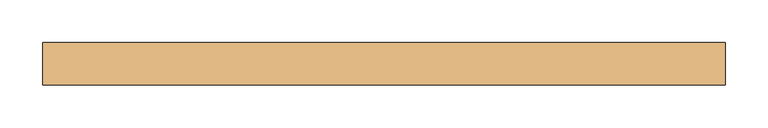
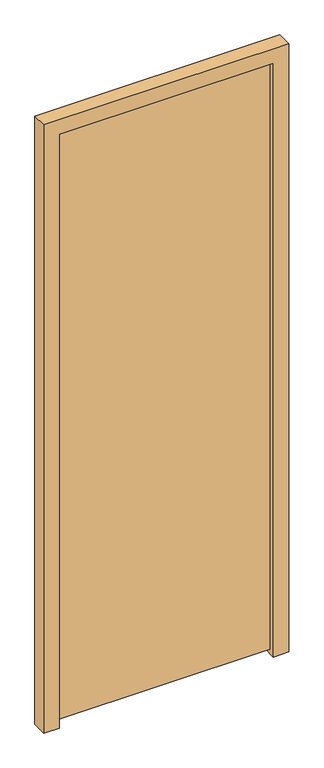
"""IFC4 building model written with IfcOpenShell, lengths in millimetres: door geometry, Dr_Дверь_v2.1 : ДС Мд1 Оп Г Брг 21-8."""

from ifc_helpers import new_model, si_unit, frame, origin, place, context, project, spatial, polyline, outline, extrude, source, transform, mapped, element, save


def door_c5ad530d(model_context):
    return source(origin(), model_context, "Body", "SweptSolid", [
        extrude(outline(polyline([(0.0, -275.0), (0.0, -225.0), (2050.0, -225.0), (2050.0, 475.0), (0.0, 475.0), (0.0, 525.0), (2100.0, 525.0), (2100.0, -275.0), (0.0, -275.0)])), frame((0.0, -7.5, 0.0), z_axis=(0.0, 1.0, 0.0), x_axis=(0.0, 0.0, 1.0)), (0.0, 0.0, 1.0), 50.0),
        extrude(outline(polyline([(475.0, 12.5), (-225.0, 12.5), (-225.0, 42.5), (475.0, 42.5), (475.0, 12.5)])), frame((0.0, 0.0, 14.0), z_axis=(0.0, 0.0, 1.0), x_axis=(1.0, 0.0, 0.0)), (0.0, 0.0, 1.0), 2036.0),
    ])


if __name__ == "__main__":
    model = new_model("IFC4")
    model_context = context("Model", 3, world=origin())
    ifc_project = project(units=[si_unit("LENGTHUNIT", "METRE", prefix="MILLI")], contexts=[model_context])
    site = spatial("IfcSite", under=ifc_project)
    building = spatial("IfcBuilding", under=site)
    placement = place(None, origin())
    door_shape = door_c5ad530d(model_context)
    element("IfcDoor", 1, ObjectType="Dr_Дверь_v2.1 : ДС Мд1 Оп Г Брг 21-8", at=placement, inside=building, context=model_context, shape_type="MappedRepresentation", body=[
        mapped(door_shape, transform((0.0, 0.0, 0.0), x_axis=(1.0, 0.0, 0.0), y_axis=(0.0, 1.0, 0.0), z_axis=(0.0, 0.0, 1.0))),
    ])
    save(model, "model.ifc")
